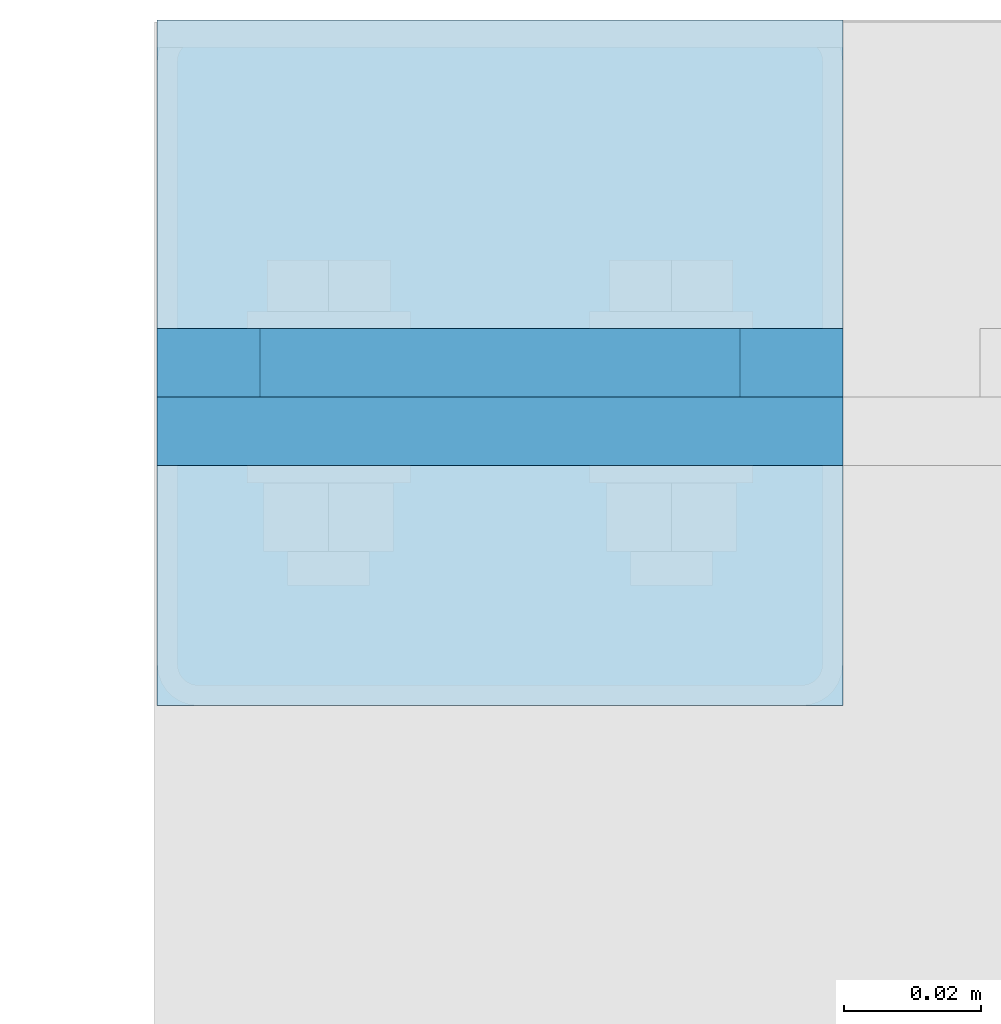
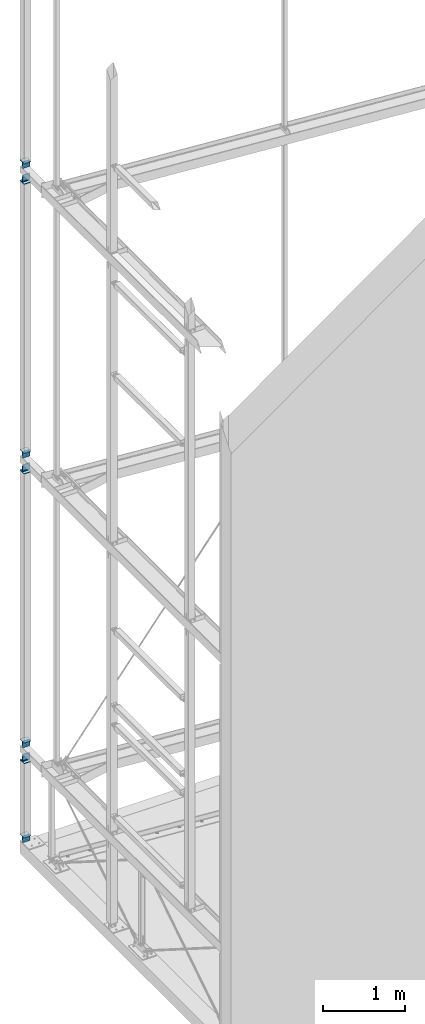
# One storey, part 149 of 271: 21 plates, 8 elements without a shape of their own.
"""IFC2X3 building model written with IfcOpenShell, lengths in millimetres."""

from ifc_helpers import new_model, si_unit, frame, origin_with_axes, place, context, subcontext, project, spatial, polyline, outline, extrude, material, type_object, element, aggregate, save


model = new_model("IFC2X3")

# Units and contexts
model_context = context("Model", 3, precision=1e-05, world=origin_with_axes())
body_context = subcontext(model_context, "Body", "Model", "MODEL_VIEW")
ifc_project = project(units=[si_unit("LENGTHUNIT", "METRE", prefix="MILLI"), si_unit("AREAUNIT", "SQUARE_METRE"), si_unit("VOLUMEUNIT", "CUBIC_METRE"), si_unit("MASSUNIT", "GRAM", prefix="KILO"), si_unit("TIMEUNIT", "SECOND"), si_unit("PLANEANGLEUNIT", "RADIAN"), si_unit("SOLIDANGLEUNIT", "STERADIAN"), si_unit("THERMODYNAMICTEMPERATUREUNIT", "DEGREE_CELSIUS"), si_unit("LUMINOUSINTENSITYUNIT", "LUMEN")], contexts=[model_context])

# Site, building, storey
site_placement = place(None, origin_with_axes())
site = spatial("IfcSite", under=ifc_project, at=site_placement, Name="Undefined", CompositionType="ELEMENT")
building_placement = place(site_placement, origin_with_axes())
building = spatial("IfcBuilding", under=site, at=building_placement, Name="Undefined", CompositionType="ELEMENT")
storey_placement = place(building_placement, origin_with_axes())
storey = spatial("IfcBuildingStorey", under=building, at=storey_placement, Name="Undefined", CompositionType="ELEMENT", Elevation=0.0)

# Assembly, plates
assembly_1_placement = place(storey_placement, origin_with_axes())
assembly_1 = element("IfcElementAssembly", 1, at=assembly_1_placement, inside=storey, AssemblyPlace="NOTDEFINED", PredefinedType="RIGID_FRAME")
ifc_material = material(Name="STEEL/S355JR")
plate_type_1 = type_object("IfcPlateType", Name="BL8*100", PredefinedType="NOTDEFINED")
plate_1_placement = place(assembly_1_placement, frame((88.3756870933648, 4859.32498425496, 94.3499999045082), z_axis=(0.0, 0.0, -1.0), x_axis=(-1.0, 0.0, 1.38777878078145e-17)))
plate_1 = element("IfcPlate", 2, at=plate_1_placement, type_object=plate_type_1, material=ifc_material, Name="BLACHA", ObjectType="BL8*100", context=body_context, shape_type="SweptSolid", body=[
    extrude(outline(polyline([(0.0, 0.0), (100.0, 0.0), (100.0, 100.0), (1.59161572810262e-12, 100.0), (0.0, 0.0)])), frame((0.0, 0.0, -4.0), z_axis=(0.0, 0.0, 1.0), x_axis=(1.0, 0.0, 0.0)), (0.0, 0.0, 1.0), 8.0),
])
plate_2_placement = place(assembly_1_placement, frame((-11.6243129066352, 4859.32498425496, 1200.34999990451), z_axis=(0.0, 0.0, 1.0), x_axis=(1.0, 0.0, 0.0)))
plate_2 = element("IfcPlate", 3, at=plate_2_placement, type_object=plate_type_1, material=ifc_material, Name="BLACHA", ObjectType="BL8*100", context=body_context, shape_type="SweptSolid", body=[
    extrude(outline(polyline([(0.0, 0.0), (100.0, 0.0), (100.0, 100.0), (1.59161572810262e-12, 100.0), (0.0, 0.0)])), frame((0.0, 0.0, -4.0), z_axis=(0.0, 0.0, 1.0), x_axis=(1.0, 0.0, 0.0)), (0.0, 0.0, 1.0), 8.0),
])

assembly_2_placement = place(storey_placement, origin_with_axes())
assembly_2 = element("IfcElementAssembly", 4, at=assembly_2_placement, inside=storey, AssemblyPlace="NOTDEFINED", PredefinedType="RIGID_FRAME")
plate_3_placement = place(assembly_2_placement, frame((88.3756870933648, 4859.32498425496, 1508.34999990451), z_axis=(0.0, 0.0, -1.0), x_axis=(-1.0, 0.0, 1.38777878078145e-17)))
plate_3 = element("IfcPlate", 5, at=plate_3_placement, type_object=plate_type_1, material=ifc_material, Name="BLACHA", ObjectType="BL8*100", context=body_context, shape_type="SweptSolid", body=[
    extrude(outline(polyline([(0.0, 0.0), (100.0, 0.0), (100.0, 100.0), (1.59161572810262e-12, 100.0), (0.0, 0.0)])), frame((0.0, 0.0, -4.0), z_axis=(0.0, 0.0, 1.0), x_axis=(1.0, 0.0, 0.0)), (0.0, 0.0, 1.0), 8.0),
])
plate_4_placement = place(assembly_2_placement, frame((-11.6243129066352, 4859.32498425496, 5520.34999990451), z_axis=(0.0, 0.0, 1.0), x_axis=(1.0, 0.0, 0.0)))
plate_4 = element("IfcPlate", 6, at=plate_4_placement, type_object=plate_type_1, material=ifc_material, Name="BLACHA", ObjectType="BL8*100", context=body_context, shape_type="SweptSolid", body=[
    extrude(outline(polyline([(0.0, 0.0), (100.0, 0.0), (100.0, 100.0), (1.59161572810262e-12, 100.0), (0.0, 0.0)])), frame((0.0, 0.0, -4.0), z_axis=(0.0, 0.0, 1.0), x_axis=(1.0, 0.0, 0.0)), (0.0, 0.0, 1.0), 8.0),
])

assembly_3_placement = place(storey_placement, origin_with_axes())
assembly_3 = element("IfcElementAssembly", 7, at=assembly_3_placement, inside=storey, AssemblyPlace="NOTDEFINED", PredefinedType="RIGID_FRAME")
plate_5_placement = place(assembly_3_placement, frame((88.3756870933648, 4859.32498425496, 5828.34999990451), z_axis=(0.0, 0.0, -1.0), x_axis=(-1.0, 0.0, 1.38777878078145e-17)))
plate_5 = element("IfcPlate", 8, at=plate_5_placement, type_object=plate_type_1, material=ifc_material, Name="BLACHA", ObjectType="BL8*100", context=body_context, shape_type="SweptSolid", body=[
    extrude(outline(polyline([(0.0, 0.0), (100.0, 0.0), (100.0, 100.0), (1.59161572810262e-12, 100.0), (0.0, 0.0)])), frame((0.0, 0.0, -4.0), z_axis=(0.0, 0.0, 1.0), x_axis=(1.0, 0.0, 0.0)), (0.0, 0.0, 1.0), 8.0),
])
plate_6_placement = place(assembly_3_placement, frame((-11.6243129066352, 4859.32498425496, 9840.34999990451), z_axis=(0.0, 0.0, 1.0), x_axis=(1.0, 0.0, 0.0)))
plate_6 = element("IfcPlate", 9, at=plate_6_placement, type_object=plate_type_1, material=ifc_material, Name="BLACHA", ObjectType="BL8*100", context=body_context, shape_type="SweptSolid", body=[
    extrude(outline(polyline([(0.0, 0.0), (100.0, 0.0), (100.0, 100.0), (1.59161572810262e-12, 100.0), (0.0, 0.0)])), frame((0.0, 0.0, -4.0), z_axis=(0.0, 0.0, 1.0), x_axis=(1.0, 0.0, 0.0)), (0.0, 0.0, 1.0), 8.0),
])

# Assembly, plate
assembly_4_placement = place(storey_placement, origin_with_axes())
assembly_4 = element("IfcElementAssembly", 10, at=assembly_4_placement, inside=storey, AssemblyPlace="NOTDEFINED", PredefinedType="RIGID_FRAME")
plate_7_placement = place(assembly_4_placement, frame((88.3756870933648, 4859.32498425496, 10148.3499999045), z_axis=(0.0, 0.0, -1.0), x_axis=(-1.0, 0.0, 1.38777878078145e-17)))
plate_7 = element("IfcPlate", 11, at=plate_7_placement, type_object=plate_type_1, material=ifc_material, Name="BLACHA", ObjectType="BL8*100", context=body_context, shape_type="SweptSolid", body=[
    extrude(outline(polyline([(0.0, 0.0), (100.0, 0.0), (100.0, 100.0), (1.59161572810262e-12, 100.0), (0.0, 0.0)])), frame((0.0, 0.0, -4.0), z_axis=(0.0, 0.0, 1.0), x_axis=(1.0, 0.0, 0.0)), (0.0, 0.0, 1.0), 8.0),
])

# Plate
plate_type_2 = type_object("IfcPlateType", Name="BL10*70", PredefinedType="NOTDEFINED")
plate_8_placement = place(assembly_1_placement, frame((88.3756870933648, 4909.32498425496, 35.3499999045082), z_axis=(0.0, 1.0, 0.0), x_axis=(-0.707106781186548, 0.0, -0.707106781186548)))
plate_8 = element("IfcPlate", 12, at=plate_8_placement, type_object=plate_type_2, material=ifc_material, Name="BLACHA", ObjectType="BL10*70", context=body_context, shape_type="SweptSolid", body=[
    extrude(outline(polyline([(0.0, 0.0), (21.2132034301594, 1.09139364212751e-11), (70.7106781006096, 49.4974746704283), (70.7106781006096, 70.7106781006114), (31.8198051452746, 109.601554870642), (-38.890872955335, 38.8908729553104), (0.0, 0.0)])), frame((0.0, 0.0, -5.0), z_axis=(0.0, 0.0, 1.0), x_axis=(1.0, 0.0, 0.0)), (0.0, 0.0, 1.0), 10.0),
])

# Assembly, plate
assembly_5_placement = place(storey_placement, origin_with_axes())
assembly_5 = element("IfcElementAssembly", 13, at=assembly_5_placement, inside=storey, AssemblyPlace="NOTDEFINED", PredefinedType="RIGID_FRAME")
plate_9_placement = place(assembly_5_placement, frame((88.3756870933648, 4899.32498425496, 0.349999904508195), z_axis=(0.0, 1.0, 0.0), x_axis=(-1.0, 0.0, 1.38777878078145e-17)))
plate_9 = element("IfcPlate", 14, at=plate_9_placement, type_object=plate_type_2, material=ifc_material, Name="BLACHA", ObjectType="BL10*70", context=body_context, shape_type="SweptSolid", body=[
    extrude(outline(polyline([(0.0, 0.0), (100.0, 0.0), (100.0, 70.0), (0.0, 70.0), (0.0, 0.0)])), frame((0.0, 0.0, -5.0), z_axis=(0.0, 0.0, 1.0), x_axis=(1.0, 0.0, 0.0)), (0.0, 0.0, 1.0), 10.0),
])
aggregate(assembly_5, [plate_9])

# Plate
plate_10_placement = place(assembly_2_placement, frame((88.3756870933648, 4909.32498425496, 1449.34999990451), z_axis=(0.0, 1.0, 0.0), x_axis=(-0.707106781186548, 0.0, -0.707106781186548)))
plate_10 = element("IfcPlate", 15, at=plate_10_placement, type_object=plate_type_2, material=ifc_material, Name="BLACHA", ObjectType="BL10*70", context=body_context, shape_type="SweptSolid", body=[
    extrude(outline(polyline([(0.0, 0.0), (21.2132034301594, 1.09139364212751e-11), (70.7106781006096, 49.4974746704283), (70.7106781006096, 70.7106781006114), (31.8198051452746, 109.601554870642), (-38.890872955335, 38.8908729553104), (0.0, 0.0)])), frame((0.0, 0.0, -5.0), z_axis=(0.0, 0.0, 1.0), x_axis=(1.0, 0.0, 0.0)), (0.0, 0.0, 1.0), 10.0),
])

# Assembly, plate
assembly_6_placement = place(storey_placement, origin_with_axes())
assembly_6 = element("IfcElementAssembly", 16, at=assembly_6_placement, inside=storey, AssemblyPlace="NOTDEFINED", PredefinedType="RIGID_FRAME")
plate_11_placement = place(assembly_6_placement, frame((88.3756870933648, 4899.32498425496, 1414.34999990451), z_axis=(0.0, 1.0, 0.0), x_axis=(-1.0, 0.0, 1.38777878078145e-17)))
plate_11 = element("IfcPlate", 17, at=plate_11_placement, type_object=plate_type_2, material=ifc_material, Name="BLACHA", ObjectType="BL10*70", context=body_context, shape_type="SweptSolid", body=[
    extrude(outline(polyline([(0.0, 0.0), (100.0, 0.0), (100.0, 70.0), (0.0, 70.0), (0.0, 0.0)])), frame((0.0, 0.0, -5.0), z_axis=(0.0, 0.0, 1.0), x_axis=(1.0, 0.0, 0.0)), (0.0, 0.0, 1.0), 10.0),
])

# Plate
plate_12_placement = place(assembly_3_placement, frame((88.3756870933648, 4909.32498425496, 5769.34999990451), z_axis=(0.0, 1.0, 0.0), x_axis=(-0.707106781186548, 0.0, -0.707106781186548)))
plate_12 = element("IfcPlate", 18, at=plate_12_placement, type_object=plate_type_2, material=ifc_material, Name="BLACHA", ObjectType="BL10*70", context=body_context, shape_type="SweptSolid", body=[
    extrude(outline(polyline([(0.0, 0.0), (21.2132034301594, 1.09139364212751e-11), (70.7106781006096, 49.4974746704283), (70.7106781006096, 70.7106781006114), (31.8198051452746, 109.601554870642), (-38.890872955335, 38.8908729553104), (0.0, 0.0)])), frame((0.0, 0.0, -5.0), z_axis=(0.0, 0.0, 1.0), x_axis=(1.0, 0.0, 0.0)), (0.0, 0.0, 1.0), 10.0),
])

# Assembly, plate
assembly_7_placement = place(storey_placement, origin_with_axes())
assembly_7 = element("IfcElementAssembly", 19, at=assembly_7_placement, inside=storey, AssemblyPlace="NOTDEFINED", PredefinedType="RIGID_FRAME")
plate_13_placement = place(assembly_7_placement, frame((88.3756870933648, 4899.32498425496, 5734.34999990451), z_axis=(0.0, 1.0, 0.0), x_axis=(-1.0, 0.0, 1.38777878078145e-17)))
plate_13 = element("IfcPlate", 20, at=plate_13_placement, type_object=plate_type_2, material=ifc_material, Name="BLACHA", ObjectType="BL10*70", context=body_context, shape_type="SweptSolid", body=[
    extrude(outline(polyline([(0.0, 0.0), (100.0, 0.0), (100.0, 70.0), (0.0, 70.0), (0.0, 0.0)])), frame((0.0, 0.0, -5.0), z_axis=(0.0, 0.0, 1.0), x_axis=(1.0, 0.0, 0.0)), (0.0, 0.0, 1.0), 10.0),
])

# Plate
plate_14_placement = place(assembly_4_placement, frame((88.3756870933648, 4909.32498425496, 10089.3499999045), z_axis=(0.0, 1.0, 0.0), x_axis=(-0.707106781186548, 0.0, -0.707106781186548)))
plate_14 = element("IfcPlate", 21, at=plate_14_placement, type_object=plate_type_2, material=ifc_material, Name="BLACHA", ObjectType="BL10*70", context=body_context, shape_type="SweptSolid", body=[
    extrude(outline(polyline([(0.0, 0.0), (21.2132034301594, 1.09139364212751e-11), (70.7106781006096, 49.4974746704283), (70.7106781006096, 70.7106781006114), (31.8198051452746, 109.601554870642), (-38.890872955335, 38.8908729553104), (0.0, 0.0)])), frame((0.0, 0.0, -5.0), z_axis=(0.0, 0.0, 1.0), x_axis=(1.0, 0.0, 0.0)), (0.0, 0.0, 1.0), 10.0),
])

aggregate(assembly_4, [plate_7, plate_14])

# Assembly, plate
assembly_8_placement = place(storey_placement, origin_with_axes())
assembly_8 = element("IfcElementAssembly", 22, at=assembly_8_placement, inside=storey, AssemblyPlace="NOTDEFINED", PredefinedType="RIGID_FRAME")
plate_15_placement = place(assembly_8_placement, frame((88.3756870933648, 4899.32498425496, 10054.3499999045), z_axis=(0.0, 1.0, 0.0), x_axis=(-1.0, 0.0, 1.38777878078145e-17)))
plate_15 = element("IfcPlate", 23, at=plate_15_placement, type_object=plate_type_2, material=ifc_material, Name="BLACHA", ObjectType="BL10*70", context=body_context, shape_type="SweptSolid", body=[
    extrude(outline(polyline([(0.0, 0.0), (100.0, 0.0), (100.0, 70.0), (0.0, 70.0), (0.0, 0.0)])), frame((0.0, 0.0, -5.0), z_axis=(0.0, 0.0, 1.0), x_axis=(1.0, 0.0, 0.0)), (0.0, 0.0, 1.0), 10.0),
])

# Plate
plate_type_3 = type_object("IfcPlateType", Name="BL10*90", PredefinedType="NOTDEFINED")
plate_16_placement = place(assembly_1_placement, frame((-11.6243129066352, 4909.32498425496, 1279.34999990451), z_axis=(0.0, 1.0, 0.0), x_axis=(0.707106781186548, 0.0, 0.707106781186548)))
plate_16 = element("IfcPlate", 24, at=plate_16_placement, type_object=plate_type_3, material=ifc_material, Name="BLACHA", ObjectType="BL10*90", context=body_context, shape_type="SweptSolid", body=[
    extrude(outline(polyline([(0.0, 0.0), (21.2132034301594, 1.09139364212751e-11), (70.7106781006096, 49.4974746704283), (70.7106781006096, 70.7106781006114), (17.6776695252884, 123.743690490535), (-53.033008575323, 53.0330085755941), (0.0, 0.0)])), frame((0.0, 0.0, -5.0), z_axis=(0.0, 0.0, 1.0), x_axis=(1.0, 0.0, 0.0)), (0.0, 0.0, 1.0), 10.0),
])

aggregate(assembly_1, [plate_1, plate_8, plate_2, plate_16])

plate_17_placement = place(assembly_6_placement, frame((-11.6243129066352, 4899.32498425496, 1314.34999990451), z_axis=(0.0, 1.0, 0.0), x_axis=(1.0, 0.0, 0.0)))
plate_17 = element("IfcPlate", 25, at=plate_17_placement, type_object=plate_type_3, material=ifc_material, Name="BLACHA", ObjectType="BL10*90", context=body_context, shape_type="SweptSolid", body=[
    extrude(outline(polyline([(0.0, 0.0), (100.0, 0.0), (100.0, 90.0), (0.0, 90.0), (0.0, 0.0)])), frame((0.0, 0.0, -5.0), z_axis=(0.0, 0.0, 1.0), x_axis=(1.0, 0.0, 0.0)), (0.0, 0.0, 1.0), 10.0),
])

aggregate(assembly_6, [plate_17, plate_11])

plate_18_placement = place(assembly_2_placement, frame((-11.6243129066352, 4909.32498425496, 5599.34999990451), z_axis=(0.0, 1.0, 0.0), x_axis=(0.707106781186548, 0.0, 0.707106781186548)))
plate_18 = element("IfcPlate", 26, at=plate_18_placement, type_object=plate_type_3, material=ifc_material, Name="BLACHA", ObjectType="BL10*90", context=body_context, shape_type="SweptSolid", body=[
    extrude(outline(polyline([(0.0, 0.0), (21.2132034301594, 1.09139364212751e-11), (70.7106781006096, 49.4974746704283), (70.7106781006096, 70.7106781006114), (17.6776695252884, 123.743690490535), (-53.033008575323, 53.0330085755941), (0.0, 0.0)])), frame((0.0, 0.0, -5.0), z_axis=(0.0, 0.0, 1.0), x_axis=(1.0, 0.0, 0.0)), (0.0, 0.0, 1.0), 10.0),
])

aggregate(assembly_2, [plate_3, plate_10, plate_4, plate_18])

plate_19_placement = place(assembly_7_placement, frame((-11.6243129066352, 4899.32498425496, 5634.34999990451), z_axis=(0.0, 1.0, 0.0), x_axis=(1.0, 0.0, 0.0)))
plate_19 = element("IfcPlate", 27, at=plate_19_placement, type_object=plate_type_3, material=ifc_material, Name="BLACHA", ObjectType="BL10*90", context=body_context, shape_type="SweptSolid", body=[
    extrude(outline(polyline([(0.0, 0.0), (100.0, 0.0), (100.0, 90.0), (0.0, 90.0), (0.0, 0.0)])), frame((0.0, 0.0, -5.0), z_axis=(0.0, 0.0, 1.0), x_axis=(1.0, 0.0, 0.0)), (0.0, 0.0, 1.0), 10.0),
])

aggregate(assembly_7, [plate_19, plate_13])

plate_20_placement = place(assembly_3_placement, frame((-11.6243129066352, 4909.32498425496, 9919.34999990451), z_axis=(0.0, 1.0, 0.0), x_axis=(0.707106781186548, 0.0, 0.707106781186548)))
plate_20 = element("IfcPlate", 28, at=plate_20_placement, type_object=plate_type_3, material=ifc_material, Name="BLACHA", ObjectType="BL10*90", context=body_context, shape_type="SweptSolid", body=[
    extrude(outline(polyline([(0.0, 0.0), (21.2132034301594, 1.09139364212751e-11), (70.7106781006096, 49.4974746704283), (70.7106781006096, 70.7106781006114), (17.6776695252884, 123.743690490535), (-53.033008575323, 53.0330085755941), (0.0, 0.0)])), frame((0.0, 0.0, -5.0), z_axis=(0.0, 0.0, 1.0), x_axis=(1.0, 0.0, 0.0)), (0.0, 0.0, 1.0), 10.0),
])

aggregate(assembly_3, [plate_5, plate_12, plate_6, plate_20])

plate_21_placement = place(assembly_8_placement, frame((-11.6243129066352, 4899.32498425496, 9954.34999990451), z_axis=(0.0, 1.0, 0.0), x_axis=(1.0, 0.0, 0.0)))
plate_21 = element("IfcPlate", 29, at=plate_21_placement, type_object=plate_type_3, material=ifc_material, Name="BLACHA", ObjectType="BL10*90", context=body_context, shape_type="SweptSolid", body=[
    extrude(outline(polyline([(0.0, 0.0), (100.0, 0.0), (100.0, 90.0), (0.0, 90.0), (0.0, 0.0)])), frame((0.0, 0.0, -5.0), z_axis=(0.0, 0.0, 1.0), x_axis=(1.0, 0.0, 0.0)), (0.0, 0.0, 1.0), 10.0),
])

aggregate(assembly_8, [plate_21, plate_15])

save(model, "model.ifc")
